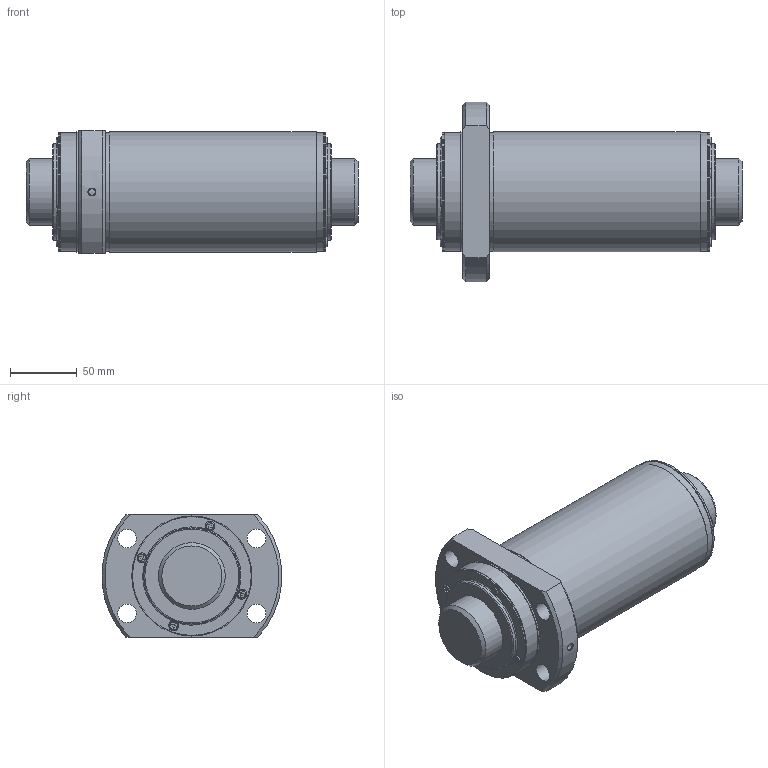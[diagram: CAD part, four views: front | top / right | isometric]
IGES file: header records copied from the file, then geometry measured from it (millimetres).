
Start section: Data from Parasolid IGES Translator 26.0.171, Copyright(c) 2006 Siemens PLM Software. All Rights Reserved.
Global section: file name: WTF50100-3ZZ+248.8LC7T_000_rev.igs; native system: By Siemens PLM Incorporated; preprocessor: XPlus GENERIC/IGES 26.0.171; author: Noname; organization: Noname; date: 20250611.064155; units: millimetre
Bounding box: 248.8 x 134.77 x 92 mm (x, y, z)
Surface area: 157967.2 mm2 (no closed solid volume)
Topology: 0 solids, 0 shells, 214 faces, 1128 edges, 1068 vertices
Faces by surface type: extrusion 127, revolution 87
